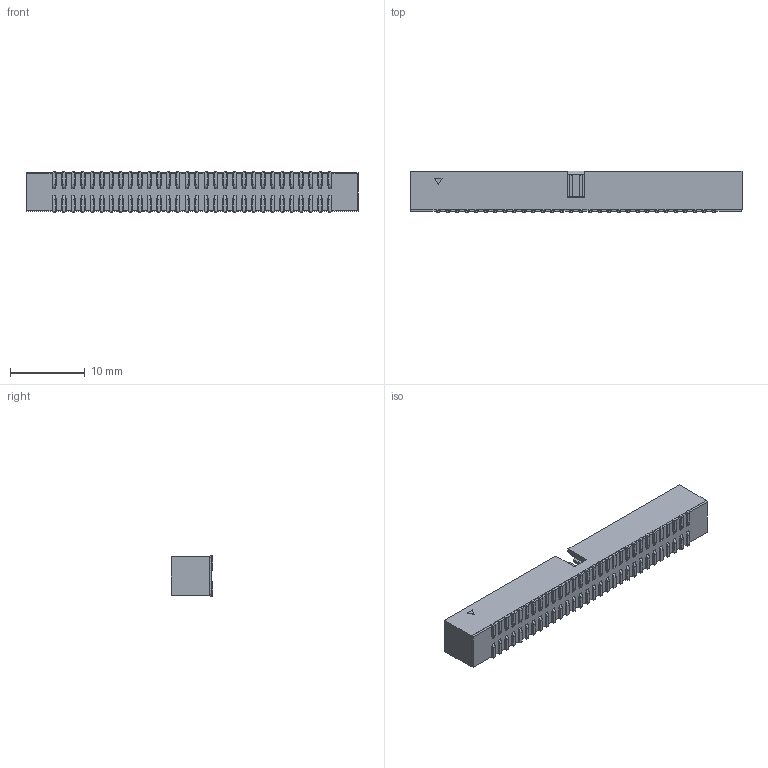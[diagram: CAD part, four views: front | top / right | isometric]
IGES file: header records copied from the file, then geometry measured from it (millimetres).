
Start section: SolidWorks IGES file using analytic representation for surfaces
Global section: file name: D:\RD\品管\3DS\QC3DS\3xxx系列\3216-60G00DBU\3216-60G00DBU.IGS; native system: SolidWorks 2011; preprocessor: SolidWorks 2011; author: rd03; date: 150120.172005; units: millimetre
Bounding box: 44.4 x 5.6 x 5.5 mm (x, y, z)
Surface area: 2164.4 mm2 (no closed solid volume)
Topology: 0 solids, 0 shells, 1650 faces, 10224 edges, 10224 vertices
Faces by surface type: bspline 1530, revolution 120
